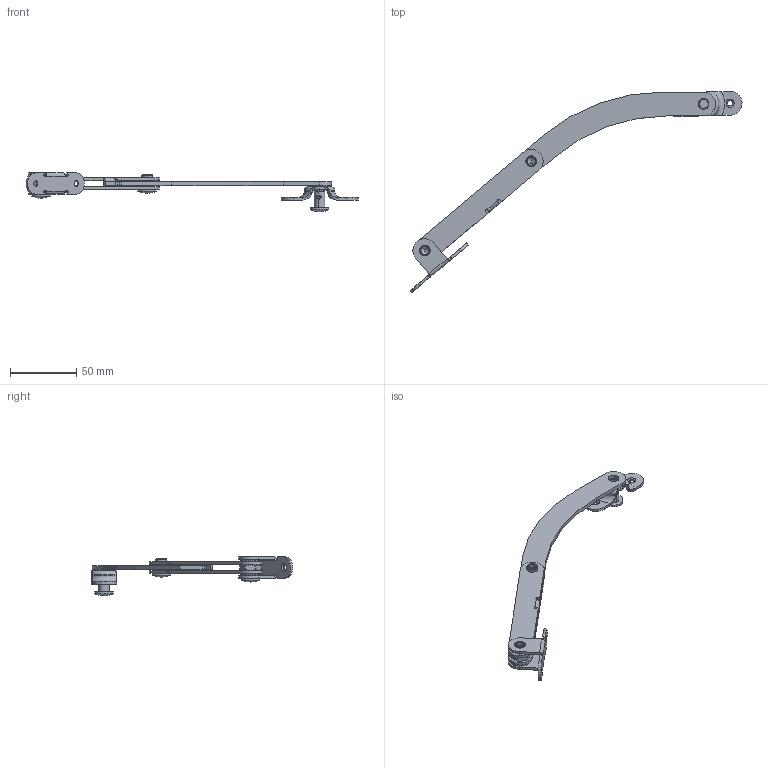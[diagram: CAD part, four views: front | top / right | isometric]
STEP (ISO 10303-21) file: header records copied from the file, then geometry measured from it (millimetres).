
FILE_DESCRIPTION (( 'STEP AP203' ), '1' );
FILE_NAME ('TX80-1-Y.STEP', '2019-09-18T08:57:28', ( 'Win7' ), ( 'Microsoft' ), 'SwSTEP 2.0', 'SolidWorks 2018', '' );
FILE_SCHEMA (( 'CONFIG_CONTROL_DESIGN' ));
Length unit declared in the file: millimetre
Products named in the file (15): MAODING2^TX80-1-Z(2)_TX80-1-Y; XIANWEIGAN1^TX80-1-Z(2)_TX80-1-Y; TX80-1-Z(2)^TX80-1-Y; BAIGAN3^TX80-1-Z(2)_TX80-1-Y; 葩璃 GUDINGZUO1^TX80-1-Y; BAIGAN2^TX80-1-Z(2)_TX80-1-Y; 葩璃 MAODING^TX80-1-Y; 6MMGANZHU^TX80-1-Z(2)_TX80-1-Y; 葩璃 DIANPIAN^TX80-1-Y; GUDINGZUO^TX80-1-Z(2)_TX80-1-Y; 葩璃 (2) DIANPIAN^TX80-1-Y; TX80-1-Y; M10BAOLUOMU^TX80-1-Z(2)_TX80-1-Y; MAODING3^TX80-1-Z(2)_TX80-1-Y; DIANPIAN^TX80-1-Z(2)_TX80-1-Y
Assembly tree (15 placements, depth 3):
  TX80-1-Y
    TX80-1-Z(2)^TX80-1-Y
      XIANWEIGAN1^TX80-1-Z(2)_TX80-1-Y
      BAIGAN3^TX80-1-Z(2)_TX80-1-Y
      BAIGAN2^TX80-1-Z(2)_TX80-1-Y
      6MMGANZHU^TX80-1-Z(2)_TX80-1-Y
      GUDINGZUO^TX80-1-Z(2)_TX80-1-Y
      M10BAOLUOMU^TX80-1-Z(2)_TX80-1-Y
      MAODING3^TX80-1-Z(2)_TX80-1-Y
      DIANPIAN^TX80-1-Z(2)_TX80-1-Y  x2
      MAODING2^TX80-1-Z(2)_TX80-1-Y
    葩璃 GUDINGZUO1^TX80-1-Y
    葩璃 MAODING^TX80-1-Y
    葩璃 DIANPIAN^TX80-1-Y
    葩璃 (2) DIANPIAN^TX80-1-Y
Bounding box: 250.86 x 152.12 x 29.74 mm (x, y, z)
Volume: 27032.3 mm3; surface area: 28001 mm2
Topology: 14 solids, 14 shells, 259 faces, 616 edges, 382 vertices
Faces by surface type: cylinder 106, plane 78, bspline 32, cone 20, sphere 12, torus 11
Entity records: 12406 total; most frequent: CARTESIAN_POINT 5000, DIRECTION 1206, ORIENTED_EDGE 1190, EDGE_CURVE 595, AXIS2_PLACEMENT_3D 479, VERTEX_POINT 371, EDGE_LOOP 294, ADVANCED_FACE 253
